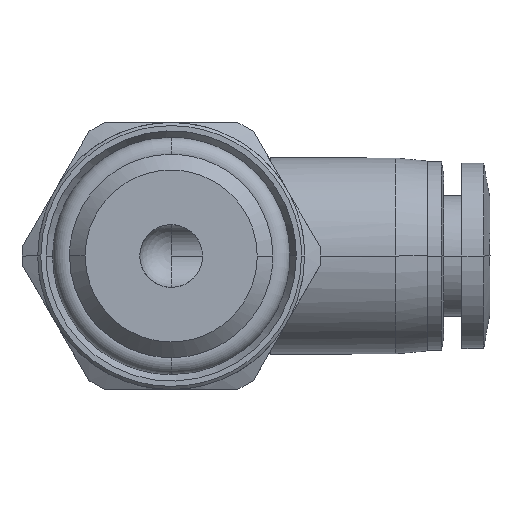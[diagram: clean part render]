
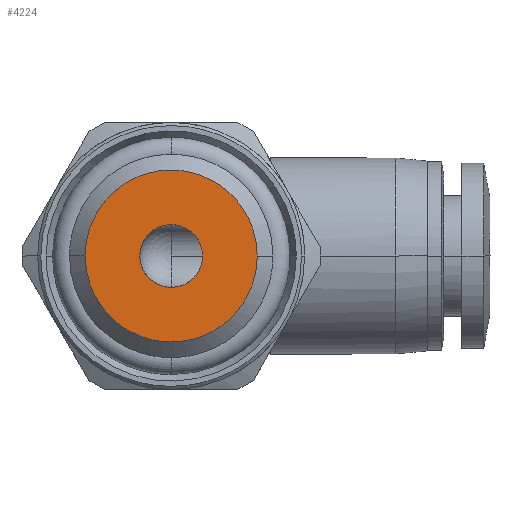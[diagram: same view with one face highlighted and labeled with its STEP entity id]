
A CAD part, front view. The second image highlights one B-rep face of the part: STEP entity #4224.
In plain terms, the highlighted planar face has unit normal (0, -1, 0).
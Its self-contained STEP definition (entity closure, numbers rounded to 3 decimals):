
#2 = CARTESIAN_POINT ( 'NONE',  ( -2.759, -26., 4.783 ) ) ;
#18 = CARTESIAN_POINT ( 'NONE',  ( -2.759, -26., -4.783 ) ) ;
#245 = CARTESIAN_POINT ( 'NONE',  ( 0.521, -26., 1.949 ) ) ;
#268 = CARTESIAN_POINT ( 'NONE',  ( 2., -26., 0.265 ) ) ;
#276 = CARTESIAN_POINT ( 'NONE',  ( 1.746, -26., -1.01 ) ) ;
#290 = CARTESIAN_POINT ( 'NONE',  ( -0.718, -26., -5.475 ) ) ;
#294 = CARTESIAN_POINT ( 'NONE',  ( 1.01, -26., 1.746 ) ) ;
#295 = CARTESIAN_POINT ( 'NONE',  ( -3.363, -26., 4.379 ) ) ;
#312 = CARTESIAN_POINT ( 'NONE',  ( -1.432, -26., -5.333 ) ) ;
#316 = CARTESIAN_POINT ( 'NONE',  ( 5.475, -26., 0.718 ) ) ;
#394 = EDGE_CURVE ( 'NONE', #805, #1986, #3082, .T. ) ;
#587 = CARTESIAN_POINT ( 'NONE',  ( 1.746, -26., 1.01 ) ) ;
#610 = CARTESIAN_POINT ( 'NONE',  ( -0.265, -26., 2. ) ) ;
#677 = CARTESIAN_POINT ( 'NONE',  ( 4.379, -26., 3.363 ) ) ;
#758 = CARTESIAN_POINT ( 'NONE',  ( 2., -26., 0. ) ) ;
#805 = VERTEX_POINT ( 'NONE', #3562 ) ;
#884 = EDGE_CURVE ( 'NONE', #1559, #2594, #2887, .T. ) ;
#907 = CARTESIAN_POINT ( 'NONE',  ( -2., -26., -0.265 ) ) ;
#973 = CARTESIAN_POINT ( 'NONE',  ( -1.01, -26., -1.746 ) ) ;
#987 = CARTESIAN_POINT ( 'NONE',  ( -4.783, -26., -2.759 ) ) ;
#1011 = CARTESIAN_POINT ( 'NONE',  ( 4.783, -26., -2.759 ) ) ;
#1028 = DIRECTION ( 'NONE',  ( 0., -1., 0. ) ) ;
#1114 = B_SPLINE_CURVE_WITH_KNOTS ( 'NONE', 3,
 ( #3397, #2000, #1295, #276, #2989, #2679, #3375, #1661, #3668, #1639, #4015, #973, #1937, #4377, #3037, #2970, #907, #4424 ),
 .UNSPECIFIED., .F., .F.,
 ( 4, 2, 2, 2, 2, 2, 2, 2, 4 ),
 ( 0., 0.063, 0.125, 0.188, 0.25, 0.313, 0.375, 0.438, 0.5 ),
 .UNSPECIFIED. ) ;
#1188 = CARTESIAN_POINT ( 'NONE',  ( -1.949, -26., 0.521 ) ) ;
#1260 = EDGE_CURVE ( 'NONE', #1986, #805, #1919, .T. ) ;
#1295 = CARTESIAN_POINT ( 'NONE',  ( 1.949, -26., -0.521 ) ) ;
#1308 = CARTESIAN_POINT ( 'NONE',  ( 5.475, -26., 0. ) ) ;
#1329 = CARTESIAN_POINT ( 'NONE',  ( 2.759, -26., -4.783 ) ) ;
#1333 = CARTESIAN_POINT ( 'NONE',  ( 5.333, -26., 1.432 ) ) ;
#1399 = CARTESIAN_POINT ( 'NONE',  ( 3.363, -26., -4.379 ) ) ;
#1531 = CARTESIAN_POINT ( 'NONE',  ( 0.265, -26., 2. ) ) ;
#1534 = EDGE_LOOP ( 'NONE', ( #1732, #4384 ) ) ;
#1559 = VERTEX_POINT ( 'NONE', #4286 ) ;
#1588 = FACE_BOUND ( 'NONE', #1534, .T. ) ;
#1612 = CARTESIAN_POINT ( 'NONE',  ( -2., -26., 0.265 ) ) ;
#1639 = CARTESIAN_POINT ( 'NONE',  ( -0.265, -26., -2. ) ) ;
#1653 = CARTESIAN_POINT ( 'NONE',  ( -5.475, -26., -0.719 ) ) ;
#1657 = CARTESIAN_POINT ( 'NONE',  ( 2., -26., 0. ) ) ;
#1661 = CARTESIAN_POINT ( 'NONE',  ( 0.521, -26., -1.949 ) ) ;
#1681 = CARTESIAN_POINT ( 'NONE',  ( -4.379, -26., 3.364 ) ) ;
#1700 = CARTESIAN_POINT ( 'NONE',  ( 5.475, -26., -0.718 ) ) ;
#1706 = CARTESIAN_POINT ( 'NONE',  ( 3.364, -26., 4.379 ) ) ;
#1728 = CARTESIAN_POINT ( 'NONE',  ( 1.432, -26., 5.333 ) ) ;
#1732 = ORIENTED_EDGE ( 'NONE', *, *, #884, .T. ) ;
#1739 = CARTESIAN_POINT ( 'NONE',  ( -5.475, -26., 0. ) ) ;
#1788 = ORIENTED_EDGE ( 'NONE', *, *, #1260, .T. ) ;
#1817 = AXIS2_PLACEMENT_3D ( 'NONE', #1948, #1028, #2961 ) ;
#1919 = B_SPLINE_CURVE_WITH_KNOTS ( 'NONE', 3,
 ( #2015, #1653, #1990, #987, #2037, #3052, #18, #312, #290, #3098, #4437, #1329, #1399, #3030, #1011, #3820, #1700, #1308 ),
 .UNSPECIFIED., .F., .F.,
 ( 4, 2, 2, 2, 2, 2, 2, 2, 4 ),
 ( 0., 0.063, 0.125, 0.188, 0.25, 0.313, 0.375, 0.438, 0.5 ),
 .UNSPECIFIED. ) ;
#1937 = CARTESIAN_POINT ( 'NONE',  ( -1.227, -26., -1.601 ) ) ;
#1948 = CARTESIAN_POINT ( 'NONE',  ( -2.738, -26., 0. ) ) ;
#1986 = VERTEX_POINT ( 'NONE', #4342 ) ;
#1990 = CARTESIAN_POINT ( 'NONE',  ( -5.333, -26., -1.432 ) ) ;
#1995 = CARTESIAN_POINT ( 'NONE',  ( 1.602, -26., 1.227 ) ) ;
#2000 = CARTESIAN_POINT ( 'NONE',  ( 2., -26., -0.265 ) ) ;
#2015 = CARTESIAN_POINT ( 'NONE',  ( -5.475, -26., 0. ) ) ;
#2037 = CARTESIAN_POINT ( 'NONE',  ( -4.379, -26., -3.363 ) ) ;
#2065 = CARTESIAN_POINT ( 'NONE',  ( -0.718, -26., 5.475 ) ) ;
#2442 = EDGE_LOOP ( 'NONE', ( #1788, #3954 ) ) ;
#2594 = VERTEX_POINT ( 'NONE', #758 ) ;
#2651 = CARTESIAN_POINT ( 'NONE',  ( -1.746, -26., 1.01 ) ) ;
#2679 = CARTESIAN_POINT ( 'NONE',  ( 1.227, -26., -1.602 ) ) ;
#2710 = CARTESIAN_POINT ( 'NONE',  ( -5.475, -26., 0.719 ) ) ;
#2887 = B_SPLINE_CURVE_WITH_KNOTS ( 'NONE', 3,
 ( #3707, #1612, #1188, #2651, #2985, #3347, #4371, #3393, #610, #1531, #245, #294, #4030, #1995, #587, #3370, #268, #1657 ),
 .UNSPECIFIED., .F., .F.,
 ( 4, 2, 2, 2, 2, 2, 2, 2, 4 ),
 ( 0.5, 0.563, 0.625, 0.688, 0.75, 0.813, 0.875, 0.938, 1. ),
 .UNSPECIFIED. ) ;
#2961 = DIRECTION ( 'NONE',  ( 0., 0., -1. ) ) ;
#2970 = CARTESIAN_POINT ( 'NONE',  ( -1.949, -26., -0.521 ) ) ;
#2985 = CARTESIAN_POINT ( 'NONE',  ( -1.601, -26., 1.227 ) ) ;
#2989 = CARTESIAN_POINT ( 'NONE',  ( 1.601, -26., -1.227 ) ) ;
#3030 = CARTESIAN_POINT ( 'NONE',  ( 4.379, -26., -3.364 ) ) ;
#3037 = CARTESIAN_POINT ( 'NONE',  ( -1.746, -26., -1.01 ) ) ;
#3052 = CARTESIAN_POINT ( 'NONE',  ( -3.364, -26., -4.379 ) ) ;
#3082 = B_SPLINE_CURVE_WITH_KNOTS ( 'NONE', 3,
 ( #3778, #316, #1333, #3754, #677, #1706, #3394, #1728, #3416, #2065, #3103, #2, #295, #1681, #4441, #4114, #2710, #1739 ),
 .UNSPECIFIED., .F., .F.,
 ( 4, 2, 2, 2, 2, 2, 2, 2, 4 ),
 ( 0.5, 0.563, 0.625, 0.687, 0.75, 0.812, 0.875, 0.938, 1. ),
 .UNSPECIFIED. ) ;
#3098 = CARTESIAN_POINT ( 'NONE',  ( 0.718, -26., -5.475 ) ) ;
#3103 = CARTESIAN_POINT ( 'NONE',  ( -1.432, -26., 5.333 ) ) ;
#3340 = FACE_OUTER_BOUND ( 'NONE', #2442, .T. ) ;
#3347 = CARTESIAN_POINT ( 'NONE',  ( -1.227, -26., 1.602 ) ) ;
#3370 = CARTESIAN_POINT ( 'NONE',  ( 1.949, -26., 0.521 ) ) ;
#3375 = CARTESIAN_POINT ( 'NONE',  ( 1.01, -26., -1.746 ) ) ;
#3393 = CARTESIAN_POINT ( 'NONE',  ( -0.521, -26., 1.949 ) ) ;
#3394 = CARTESIAN_POINT ( 'NONE',  ( 2.759, -26., 4.783 ) ) ;
#3397 = CARTESIAN_POINT ( 'NONE',  ( 2., -26., 0. ) ) ;
#3416 = CARTESIAN_POINT ( 'NONE',  ( 0.718, -26., 5.475 ) ) ;
#3489 = EDGE_CURVE ( 'NONE', #2594, #1559, #1114, .T. ) ;
#3562 = CARTESIAN_POINT ( 'NONE',  ( 5.475, -26., 0. ) ) ;
#3668 = CARTESIAN_POINT ( 'NONE',  ( 0.265, -26., -2. ) ) ;
#3707 = CARTESIAN_POINT ( 'NONE',  ( -2., -26., 0. ) ) ;
#3754 = CARTESIAN_POINT ( 'NONE',  ( 4.783, -26., 2.759 ) ) ;
#3778 = CARTESIAN_POINT ( 'NONE',  ( 5.475, -26., 0. ) ) ;
#3820 = CARTESIAN_POINT ( 'NONE',  ( 5.333, -26., -1.432 ) ) ;
#3954 = ORIENTED_EDGE ( 'NONE', *, *, #394, .T. ) ;
#4015 = CARTESIAN_POINT ( 'NONE',  ( -0.521, -26., -1.949 ) ) ;
#4030 = CARTESIAN_POINT ( 'NONE',  ( 1.227, -26., 1.601 ) ) ;
#4114 = CARTESIAN_POINT ( 'NONE',  ( -5.333, -26., 1.432 ) ) ;
#4136 = PLANE ( 'NONE',  #1817 ) ;
#4224 = ADVANCED_FACE ( 'NONE', ( #1588, #3340 ), #4136, .T. ) ;
#4286 = CARTESIAN_POINT ( 'NONE',  ( -2., -26., 0. ) ) ;
#4342 = CARTESIAN_POINT ( 'NONE',  ( -5.475, -26., 0. ) ) ;
#4371 = CARTESIAN_POINT ( 'NONE',  ( -1.01, -26., 1.746 ) ) ;
#4377 = CARTESIAN_POINT ( 'NONE',  ( -1.602, -26., -1.227 ) ) ;
#4384 = ORIENTED_EDGE ( 'NONE', *, *, #3489, .T. ) ;
#4424 = CARTESIAN_POINT ( 'NONE',  ( -2., -26., 0. ) ) ;
#4437 = CARTESIAN_POINT ( 'NONE',  ( 1.432, -26., -5.333 ) ) ;
#4441 = CARTESIAN_POINT ( 'NONE',  ( -4.783, -26., 2.759 ) ) ;
